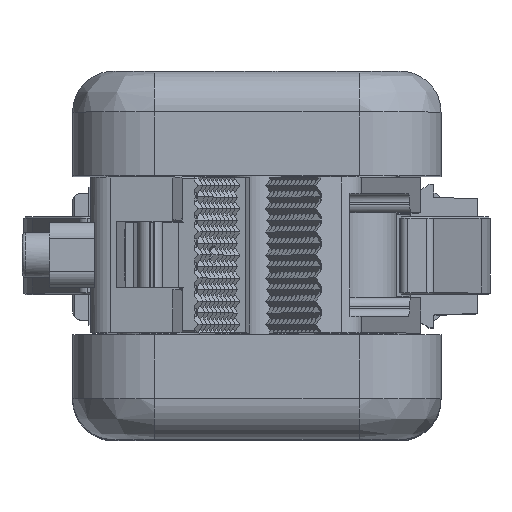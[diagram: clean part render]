
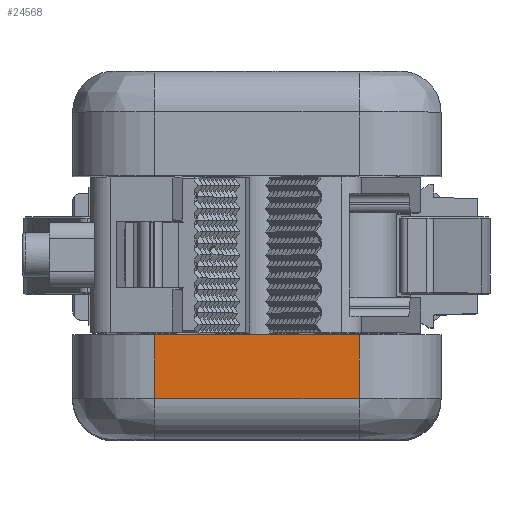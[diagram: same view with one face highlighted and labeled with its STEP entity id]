
A CAD part, top view. The second image highlights one B-rep face of the part: STEP entity #24568.
In plain terms, the highlighted planar face has unit normal (0, 0, 1).
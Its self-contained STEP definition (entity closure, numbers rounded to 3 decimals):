
#333=LINE('',#55621,#3446);
#334=LINE('',#55624,#3447);
#335=LINE('',#55626,#3448);
#336=LINE('',#55628,#3449);
#3446=VECTOR('',#46895,1.);
#3447=VECTOR('',#46896,1.);
#3448=VECTOR('',#46897,1.);
#3449=VECTOR('',#46898,1.);
#6478=FACE_OUTER_BOUND('',#28017,.T.);
#22829=PLANE('',#43971);
#24568=ADVANCED_FACE('',(#6478),#22829,.F.);
#28017=EDGE_LOOP('',(#30522,#30523,#30524,#30525));
#30522=ORIENTED_EDGE('',*,*,#40167,.T.);
#30523=ORIENTED_EDGE('',*,*,#40168,.T.);
#30524=ORIENTED_EDGE('',*,*,#40169,.T.);
#30525=ORIENTED_EDGE('',*,*,#40170,.T.);
#38134=VERTEX_POINT('',#55622);
#38135=VERTEX_POINT('',#55623);
#38136=VERTEX_POINT('',#55625);
#38137=VERTEX_POINT('',#55627);
#40167=EDGE_CURVE('',#38134,#38135,#333,.T.);
#40168=EDGE_CURVE('',#38135,#38136,#334,.T.);
#40169=EDGE_CURVE('',#38136,#38137,#335,.T.);
#40170=EDGE_CURVE('',#38137,#38134,#336,.T.);
#43971=AXIS2_PLACEMENT_3D('',#55629,#46899,#46900);
#46895=DIRECTION('',(1.,0.,0.));
#46896=DIRECTION('',(0.,1.,0.));
#46897=DIRECTION('',(-1.,0.,0.));
#46898=DIRECTION('',(0.,-1.,0.));
#46899=DIRECTION('',(0.,0.,-1.));
#46900=DIRECTION('',(1.,0.,0.));
#55621=CARTESIAN_POINT('',(22.5,-17.5,203.));
#55622=CARTESIAN_POINT('',(-12.5,-17.5,203.));
#55623=CARTESIAN_POINT('',(12.5,-17.5,203.));
#55624=CARTESIAN_POINT('',(12.5,-22.5,203.));
#55625=CARTESIAN_POINT('',(12.5,-9.7,203.));
#55626=CARTESIAN_POINT('',(-22.5,-9.7,203.));
#55627=CARTESIAN_POINT('',(-12.5,-9.7,203.));
#55628=CARTESIAN_POINT('',(-12.5,-22.5,203.));
#55629=CARTESIAN_POINT('',(-22.5,-22.5,203.));
